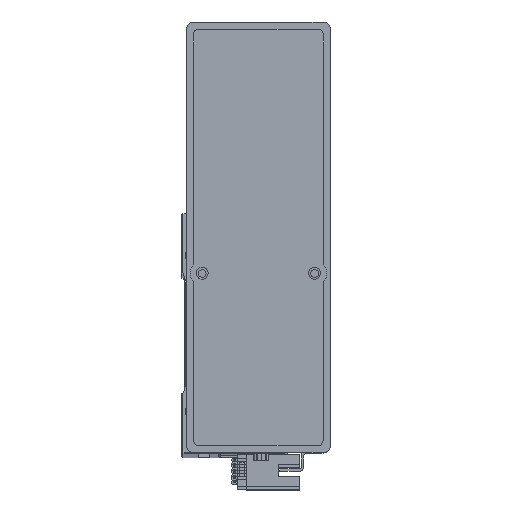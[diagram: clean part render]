
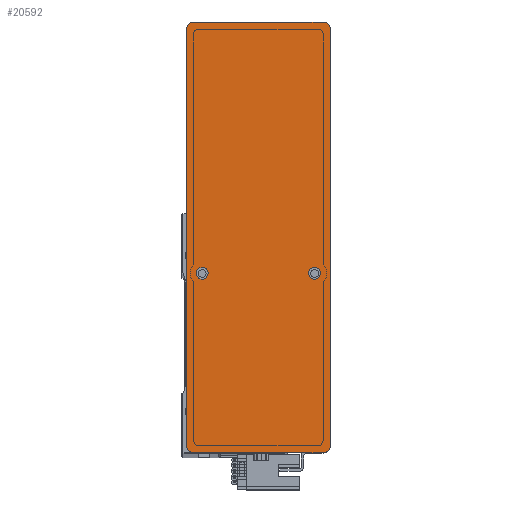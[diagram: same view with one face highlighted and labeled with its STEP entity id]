
A CAD part, top view. The second image highlights one B-rep face of the part: STEP entity #20592.
In plain terms, the highlighted planar face has unit normal (0, 0, 1) as drawn and (0, 0, -1) by its records, which use the part's own axes.
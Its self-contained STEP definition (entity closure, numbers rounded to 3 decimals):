
#984 = DIRECTION ( 'NONE',  ( 1., 0., 0. ) ) ;
#1854 = DIRECTION ( 'NONE',  ( 1., 0., 0. ) ) ;
#2609 = CARTESIAN_POINT ( 'NONE',  ( -90., -30., 0. ) ) ;
#3098 = CARTESIAN_POINT ( 'NONE',  ( -15., -23.5, 0. ) ) ;
#3331 = CARTESIAN_POINT ( 'NONE',  ( 87., 30., 0. ) ) ;
#3959 = EDGE_LOOP ( 'NONE', ( #49333, #20003 ) ) ;
#3983 = DIRECTION ( 'NONE',  ( 0., 0., -1. ) ) ;
#4065 = VERTEX_POINT ( 'NONE', #26292 ) ;
#5470 = AXIS2_PLACEMENT_3D ( 'NONE', #39127, #15901, #43019 ) ;
#5510 = DIRECTION ( 'NONE',  ( 0., 0., -1. ) ) ;
#6180 = VERTEX_POINT ( 'NONE', #29864 ) ;
#6331 = CARTESIAN_POINT ( 'NONE',  ( -87., 30., 0. ) ) ;
#6472 = LINE ( 'NONE', #45975, #47673 ) ;
#6641 = PLANE ( 'NONE',  #7211 ) ;
#6758 = EDGE_CURVE ( 'NONE', #32331, #25670, #6472, .T. ) ;
#6807 = FACE_BOUND ( 'NONE', #3959, .T. ) ;
#6998 = DIRECTION ( 'NONE',  ( -1., 0., 0. ) ) ;
#7020 = EDGE_LOOP ( 'NONE', ( #16600, #19739, #7392, #12154, #15228, #13493, #32666, #42770 ) ) ;
#7211 = AXIS2_PLACEMENT_3D ( 'NONE', #41342, #14436, #41517 ) ;
#7392 = ORIENTED_EDGE ( 'NONE', *, *, #12988, .F. ) ;
#7648 = CARTESIAN_POINT ( 'NONE',  ( -17.5, -23.5, 0. ) ) ;
#8521 = VERTEX_POINT ( 'NONE', #41414 ) ;
#8560 = CIRCLE ( 'NONE', #23587, 2.5 ) ;
#9676 = EDGE_CURVE ( 'NONE', #8521, #39131, #11279, .T. ) ;
#11279 = CIRCLE ( 'NONE', #49053, 3. ) ;
#12154 = ORIENTED_EDGE ( 'NONE', *, *, #9676, .T. ) ;
#12988 = EDGE_CURVE ( 'NONE', #8521, #6180, #40456, .T. ) ;
#13033 = CIRCLE ( 'NONE', #38013, 2.5 ) ;
#13493 = ORIENTED_EDGE ( 'NONE', *, *, #23503, .T. ) ;
#13965 = CARTESIAN_POINT ( 'NONE',  ( -90., -27., 0. ) ) ;
#14155 = CARTESIAN_POINT ( 'NONE',  ( 90., -30., 0. ) ) ;
#14436 = DIRECTION ( 'NONE',  ( 0., 0., 1. ) ) ;
#15127 = CARTESIAN_POINT ( 'NONE',  ( -87., -27., 0. ) ) ;
#15228 = ORIENTED_EDGE ( 'NONE', *, *, #48262, .F. ) ;
#15901 = DIRECTION ( 'NONE',  ( 0., 0., -1. ) ) ;
#16036 = AXIS2_PLACEMENT_3D ( 'NONE', #48263, #25036, #1854 ) ;
#16211 = CARTESIAN_POINT ( 'NONE',  ( -15., 23.5, 0. ) ) ;
#16600 = ORIENTED_EDGE ( 'NONE', *, *, #18369, .F. ) ;
#18369 = EDGE_CURVE ( 'NONE', #46491, #44920, #43968, .T. ) ;
#18687 = DIRECTION ( 'NONE',  ( 0., 0., -1. ) ) ;
#18748 = CARTESIAN_POINT ( 'NONE',  ( 90., -27., 0. ) ) ;
#19021 = DIRECTION ( 'NONE',  ( 1., 0., 0. ) ) ;
#19583 = EDGE_LOOP ( 'NONE', ( #42246, #34207 ) ) ;
#19739 = ORIENTED_EDGE ( 'NONE', *, *, #24456, .T. ) ;
#20003 = ORIENTED_EDGE ( 'NONE', *, *, #48107, .F. ) ;
#20074 = DIRECTION ( 'NONE',  ( -1., 0., 0. ) ) ;
#20592 = ADVANCED_FACE ( 'NONE', ( #6807, #49210, #38923 ), #6641, .F. ) ;
#21374 = AXIS2_PLACEMENT_3D ( 'NONE', #41871, #18687, #45828 ) ;
#23279 = VECTOR ( 'NONE', #41227, 1000. ) ;
#23503 = EDGE_CURVE ( 'NONE', #45453, #25670, #30360, .T. ) ;
#23587 = AXIS2_PLACEMENT_3D ( 'NONE', #16211, #43328, #20074 ) ;
#24456 = EDGE_CURVE ( 'NONE', #46491, #6180, #41701, .T. ) ;
#25036 = DIRECTION ( 'NONE',  ( 0., 0., -1. ) ) ;
#25504 = VERTEX_POINT ( 'NONE', #28913 ) ;
#25670 = VERTEX_POINT ( 'NONE', #6331 ) ;
#25769 = EDGE_CURVE ( 'NONE', #4065, #44158, #13033, .T. ) ;
#26292 = CARTESIAN_POINT ( 'NONE',  ( -12.5, -23.5, 0. ) ) ;
#26407 = CARTESIAN_POINT ( 'NONE',  ( -17.5, 23.5, 0. ) ) ;
#26599 = DIRECTION ( 'NONE',  ( -1., 0., 0. ) ) ;
#27150 = CARTESIAN_POINT ( 'NONE',  ( -15., -23.5, 0. ) ) ;
#27622 = CARTESIAN_POINT ( 'NONE',  ( -90., 27., 0. ) ) ;
#28696 = CARTESIAN_POINT ( 'NONE',  ( -15., 23.5, 0. ) ) ;
#28913 = CARTESIAN_POINT ( 'NONE',  ( -12.5, 23.5, 0. ) ) ;
#29864 = CARTESIAN_POINT ( 'NONE',  ( 87., -30., 0. ) ) ;
#30166 = DIRECTION ( 'NONE',  ( 0., 0., -1. ) ) ;
#30360 = CIRCLE ( 'NONE', #5470, 3. ) ;
#31034 = DIRECTION ( 'NONE',  ( -1., 0., 0. ) ) ;
#31334 = VECTOR ( 'NONE', #984, 1000. ) ;
#32331 = VERTEX_POINT ( 'NONE', #3331 ) ;
#32410 = CARTESIAN_POINT ( 'NONE',  ( 90., 27., 0. ) ) ;
#32571 = DIRECTION ( 'NONE',  ( -1., 0., 0. ) ) ;
#32666 = ORIENTED_EDGE ( 'NONE', *, *, #6758, .F. ) ;
#34207 = ORIENTED_EDGE ( 'NONE', *, *, #25769, .F. ) ;
#34674 = EDGE_CURVE ( 'NONE', #32331, #44920, #40381, .T. ) ;
#35506 = VECTOR ( 'NONE', #37343, 1000. ) ;
#35681 = CARTESIAN_POINT ( 'NONE',  ( 90., -30., 0. ) ) ;
#36024 = AXIS2_PLACEMENT_3D ( 'NONE', #28696, #5510, #32571 ) ;
#37343 = DIRECTION ( 'NONE',  ( 0., -1., 0. ) ) ;
#37406 = EDGE_CURVE ( 'NONE', #44158, #4065, #48649, .T. ) ;
#37923 = LINE ( 'NONE', #2609, #35506 ) ;
#38013 = AXIS2_PLACEMENT_3D ( 'NONE', #3098, #30166, #6998 ) ;
#38923 = FACE_OUTER_BOUND ( 'NONE', #7020, .T. ) ;
#39127 = CARTESIAN_POINT ( 'NONE',  ( -87., 27., 0. ) ) ;
#39131 = VERTEX_POINT ( 'NONE', #13965 ) ;
#39773 = CIRCLE ( 'NONE', #36024, 2.5 ) ;
#40381 = CIRCLE ( 'NONE', #16036, 3. ) ;
#40456 = LINE ( 'NONE', #35681, #31334 ) ;
#41227 = DIRECTION ( 'NONE',  ( 0., 1., 0. ) ) ;
#41342 = CARTESIAN_POINT ( 'NONE',  ( 0., 0., 0. ) ) ;
#41414 = CARTESIAN_POINT ( 'NONE',  ( -87., -30., 0. ) ) ;
#41517 = DIRECTION ( 'NONE',  ( 1., 0., 0. ) ) ;
#41701 = CIRCLE ( 'NONE', #21374, 3. ) ;
#41871 = CARTESIAN_POINT ( 'NONE',  ( 87., -27., 0. ) ) ;
#42222 = DIRECTION ( 'NONE',  ( 0., 0., -1. ) ) ;
#42246 = ORIENTED_EDGE ( 'NONE', *, *, #37406, .F. ) ;
#42770 = ORIENTED_EDGE ( 'NONE', *, *, #34674, .T. ) ;
#43019 = DIRECTION ( 'NONE',  ( 1., 0., 0. ) ) ;
#43082 = EDGE_CURVE ( 'NONE', #45905, #25504, #8560, .T. ) ;
#43328 = DIRECTION ( 'NONE',  ( 0., 0., -1. ) ) ;
#43968 = LINE ( 'NONE', #14155, #23279 ) ;
#44158 = VERTEX_POINT ( 'NONE', #7648 ) ;
#44920 = VERTEX_POINT ( 'NONE', #32410 ) ;
#45453 = VERTEX_POINT ( 'NONE', #27622 ) ;
#45828 = DIRECTION ( 'NONE',  ( 1., 0., 0. ) ) ;
#45905 = VERTEX_POINT ( 'NONE', #26407 ) ;
#45975 = CARTESIAN_POINT ( 'NONE',  ( 90., 30., 0. ) ) ;
#46491 = VERTEX_POINT ( 'NONE', #18748 ) ;
#46708 = AXIS2_PLACEMENT_3D ( 'NONE', #27150, #3983, #31034 ) ;
#47673 = VECTOR ( 'NONE', #26599, 1000. ) ;
#48107 = EDGE_CURVE ( 'NONE', #25504, #45905, #39773, .T. ) ;
#48262 = EDGE_CURVE ( 'NONE', #45453, #39131, #37923, .T. ) ;
#48263 = CARTESIAN_POINT ( 'NONE',  ( 87., 27., 0. ) ) ;
#48649 = CIRCLE ( 'NONE', #46708, 2.5 ) ;
#49053 = AXIS2_PLACEMENT_3D ( 'NONE', #15127, #42222, #19021 ) ;
#49210 = FACE_BOUND ( 'NONE', #19583, .T. ) ;
#49333 = ORIENTED_EDGE ( 'NONE', *, *, #43082, .F. ) ;
